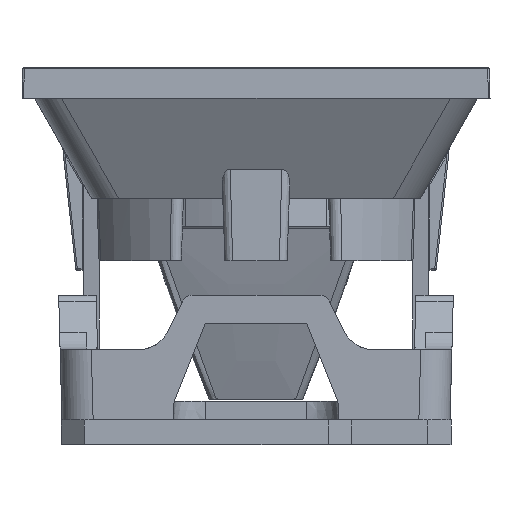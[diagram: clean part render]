
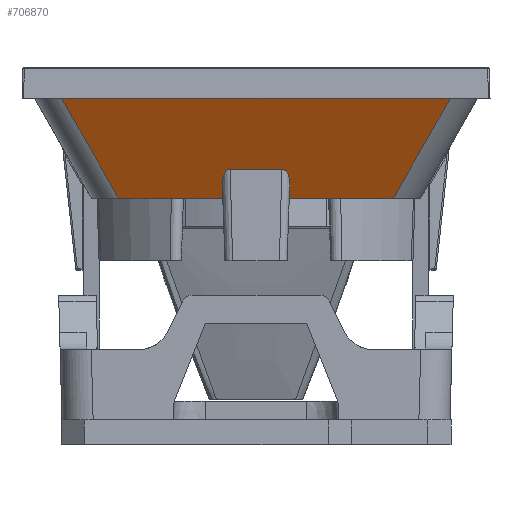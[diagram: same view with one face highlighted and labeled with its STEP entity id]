
A CAD part, left-side view. The second image highlights one B-rep face of the part: STEP entity #706870.
In plain terms, the highlighted planar face has unit normal (-0.868, 0, -0.497) as drawn and (0, -0.497, -0.868) by its records, which use the part's own axes.
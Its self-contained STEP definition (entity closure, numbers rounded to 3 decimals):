
#592910=CARTESIAN_POINT('',(-12.463,-2.,-153.699));
#592920=VERTEX_POINT('',#592910);
#592950=CARTESIAN_POINT('',(0.,-2.,-153.699));
#592960=DIRECTION('',(1.,0.,0.));
#592970=VECTOR('',#592960,1.);
#592980=LINE('',#592950,#592970);
#592990=CARTESIAN_POINT('',(12.463,-2.,-153.699));
#593000=VERTEX_POINT('',#592990);
#593010=EDGE_CURVE('',#592920,#593000,#592980,.T.);
#677670=CARTESIAN_POINT('',(8.8,-8.4,-150.036));
#677680=VERTEX_POINT('',#677670);
#677710=CARTESIAN_POINT('',(0.,-8.4,-150.036));
#677720=DIRECTION('',(-1.,0.,0.));
#677730=VECTOR('',#677720,1.);
#677740=LINE('',#677710,#677730);
#677750=CARTESIAN_POINT('',(1.797,-8.4,
-150.036));
#677760=VERTEX_POINT('',#677750);
#677770=EDGE_CURVE('',#677680,#677760,#677740,.T.);
#678010=CARTESIAN_POINT('',(-1.797,-8.4,
-150.036));
#678020=VERTEX_POINT('',#678010);
#678050=CARTESIAN_POINT('',(-8.8,-8.4,
-150.036));
#678060=VERTEX_POINT('',#678050);
#678070=EDGE_CURVE('',#678020,#678060,#677740,.T.);
#704040=CARTESIAN_POINT('',(1.654,-6.536,
-151.102));
#704050=VERTEX_POINT('',#704040);
#704080=CARTESIAN_POINT('',(0.,-6.536,-151.102));
#704090=DIRECTION('',(-1.,0.,0.));
#704100=VECTOR('',#704090,1.);
#704110=LINE('',#704080,#704100);
#704120=CARTESIAN_POINT('',(-1.654,-6.536,
-151.102));
#704130=VERTEX_POINT('',#704120);
#704140=EDGE_CURVE('',#704050,#704130,#704110,.T.);
#704650=CARTESIAN_POINT('',(-1.628,-7.499,
-150.551));
#704660=DIRECTION('',(0.,-0.497,-0.868));
#704670=DIRECTION('',(0.03,-0.868,
0.497));
#704680=AXIS2_PLACEMENT_3D('',#704650,#704660,#704670);
#704690=ELLIPSE('',#704680,1.11,0.543);
#704700=EDGE_CURVE('',#678020,#704130,#704690,.T.);
#706500=CARTESIAN_POINT('',(1.628,-7.499,
-150.551));
#706510=DIRECTION('',(0.,-0.497,-0.868));
#706520=DIRECTION('',(-0.03,-0.868,
0.497));
#706530=AXIS2_PLACEMENT_3D('',#706500,#706510,#706520);
#706540=ELLIPSE('',#706530,1.11,0.543);
#706550=EDGE_CURVE('',#704050,#677760,#706540,.T.);
#706620=CARTESIAN_POINT('',(0.,-2.,-153.699)
);
#706630=DIRECTION('',(-0.,-0.497,-0.868));
#706640=DIRECTION('',(0.,-0.868,0.497));
#706650=AXIS2_PLACEMENT_3D('',#706620,#706630,#706640);
#706660=PLANE('',#706650);
#706670=ORIENTED_EDGE('',*,*,#678070,.T.);
#706680=ORIENTED_EDGE('',*,*,#704700,.F.);
#706690=ORIENTED_EDGE('',*,*,#704140,.T.);
#706700=ORIENTED_EDGE('',*,*,#706550,.F.);
#706710=ORIENTED_EDGE('',*,*,#677770,.T.);
#706720=CARTESIAN_POINT('',(13.039,-0.994,
-154.275));
#706730=DIRECTION('',(0.445,0.777,
-0.445));
#706740=VECTOR('',#706730,1.);
#706750=LINE('',#706720,#706740);
#706760=EDGE_CURVE('',#677680,#593000,#706750,.T.);
#706770=ORIENTED_EDGE('',*,*,#706760,.F.);
#706780=ORIENTED_EDGE('',*,*,#593010,.T.);
#706790=CARTESIAN_POINT('',(-13.039,-0.994,
-154.275));
#706800=DIRECTION('',(0.445,-0.777,
0.445));
#706810=VECTOR('',#706800,1.);
#706820=LINE('',#706790,#706810);
#706830=EDGE_CURVE('',#592920,#678060,#706820,.T.);
#706840=ORIENTED_EDGE('',*,*,#706830,.F.);
#706850=EDGE_LOOP('',(#706840,#706780,#706770,#706710,#706700,#706690,
#706680,#706670));
#706860=FACE_OUTER_BOUND('',#706850,.T.);
#706870=ADVANCED_FACE('',(#706860),#706660,.T.);
